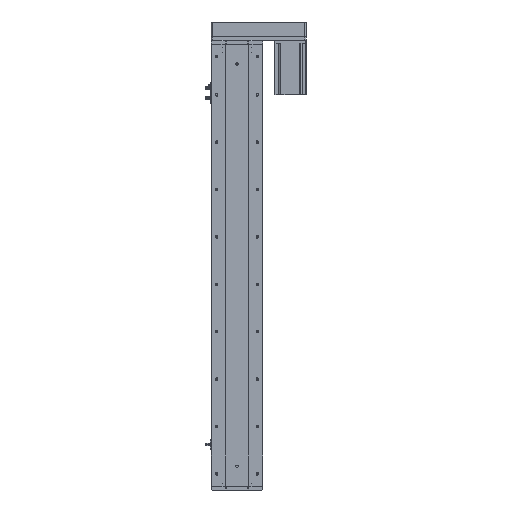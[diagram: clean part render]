
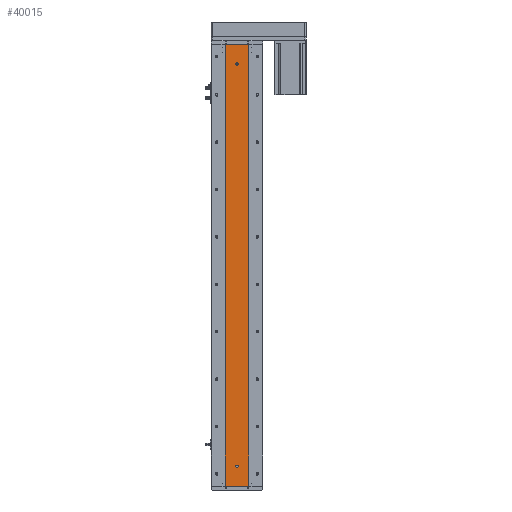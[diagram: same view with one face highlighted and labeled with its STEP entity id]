
A CAD part, left-side view. The second image highlights one B-rep face of the part: STEP entity #40015.
In plain terms, the highlighted planar face has unit normal (-1, 0, 0).
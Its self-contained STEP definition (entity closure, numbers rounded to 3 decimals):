
#620 = CARTESIAN_POINT ( 'NONE',  ( -24.994, 0., 53. ) ) ;
#733 = DIRECTION ( 'NONE',  ( 1., 0., 0. ) ) ;
#1293 = CIRCLE ( 'NONE', #39064, 3. ) ;
#2742 = VERTEX_POINT ( 'NONE', #21813 ) ;
#4194 = CARTESIAN_POINT ( 'NONE',  ( -24.994, -29.785, 0. ) ) ;
#5783 = CARTESIAN_POINT ( 'NONE',  ( -24.994, 0., 1069. ) ) ;
#6350 = VECTOR ( 'NONE', #27580, 1000. ) ;
#6418 = ORIENTED_EDGE ( 'NONE', *, *, #21323, .F. ) ;
#8297 = VERTEX_POINT ( 'NONE', #45828 ) ;
#8593 = EDGE_CURVE ( 'NONE', #48347, #8297, #35517, .T. ) ;
#8966 = CARTESIAN_POINT ( 'NONE',  ( -24.994, 0., 1069. ) ) ;
#9513 = DIRECTION ( 'NONE',  ( 0., 0., 1. ) ) ;
#10117 = EDGE_CURVE ( 'NONE', #2742, #22957, #31793, .T. ) ;
#10566 = AXIS2_PLACEMENT_3D ( 'NONE', #33377, #11016, #37164 ) ;
#11016 = DIRECTION ( 'NONE',  ( -1., 0., 0. ) ) ;
#11095 = VECTOR ( 'NONE', #24670, 1000. ) ;
#11683 = PLANE ( 'NONE',  #34535 ) ;
#12740 = DIRECTION ( 'NONE',  ( 0., 0., 1. ) ) ;
#14522 = FACE_BOUND ( 'NONE', #48151, .T. ) ;
#14836 = VERTEX_POINT ( 'NONE', #28411 ) ;
#15201 = ORIENTED_EDGE ( 'NONE', *, *, #23677, .F. ) ;
#15216 = VERTEX_POINT ( 'NONE', #620 ) ;
#15254 = CARTESIAN_POINT ( 'NONE',  ( -24.994, 0., 50. ) ) ;
#15306 = ORIENTED_EDGE ( 'NONE', *, *, #10117, .F. ) ;
#15327 = EDGE_CURVE ( 'NONE', #15216, #14836, #44857, .T. ) ;
#15699 = FACE_BOUND ( 'NONE', #33719, .T. ) ;
#18959 = DIRECTION ( 'NONE',  ( 0., 0., 1. ) ) ;
#19468 = CIRCLE ( 'NONE', #29425, 3. ) ;
#19557 = VERTEX_POINT ( 'NONE', #36884 ) ;
#19831 = LINE ( 'NONE', #32028, #11095 ) ;
#20075 = CARTESIAN_POINT ( 'NONE',  ( -24.994, 29.785, 1119. ) ) ;
#21277 = VERTEX_POINT ( 'NONE', #38398 ) ;
#21323 = EDGE_CURVE ( 'NONE', #21277, #19557, #1293, .T. ) ;
#21813 = CARTESIAN_POINT ( 'NONE',  ( -24.994, -29.785, 1119. ) ) ;
#21850 = VECTOR ( 'NONE', #40268, 1000. ) ;
#22957 = VERTEX_POINT ( 'NONE', #4194 ) ;
#23099 = CARTESIAN_POINT ( 'NONE',  ( -24.994, 29.785, 1119. ) ) ;
#23677 = EDGE_CURVE ( 'NONE', #19557, #21277, #19468, .T. ) ;
#23849 = LINE ( 'NONE', #20075, #6350 ) ;
#24461 = FACE_OUTER_BOUND ( 'NONE', #45042, .T. ) ;
#24670 = DIRECTION ( 'NONE',  ( 0., -1., 0. ) ) ;
#25380 = CARTESIAN_POINT ( 'NONE',  ( -24.994, 29.785, 1119. ) ) ;
#25767 = EDGE_CURVE ( 'NONE', #48347, #2742, #23849, .T. ) ;
#26867 = DIRECTION ( 'NONE',  ( 0., 0., -1. ) ) ;
#27565 = CARTESIAN_POINT ( 'NONE',  ( -24.994, 29.785, 1119. ) ) ;
#27580 = DIRECTION ( 'NONE',  ( 0., -1., 0. ) ) ;
#28411 = CARTESIAN_POINT ( 'NONE',  ( -24.994, 0., 47. ) ) ;
#28611 = ORIENTED_EDGE ( 'NONE', *, *, #25767, .F. ) ;
#29425 = AXIS2_PLACEMENT_3D ( 'NONE', #5783, #31910, #9513 ) ;
#29469 = EDGE_CURVE ( 'NONE', #14836, #15216, #32980, .T. ) ;
#31024 = ORIENTED_EDGE ( 'NONE', *, *, #8593, .T. ) ;
#31793 = LINE ( 'NONE', #47791, #21850 ) ;
#31910 = DIRECTION ( 'NONE',  ( -1., 0., 0. ) ) ;
#32028 = CARTESIAN_POINT ( 'NONE',  ( -24.994, 29.785, 0. ) ) ;
#32980 = CIRCLE ( 'NONE', #10566, 3. ) ;
#33377 = CARTESIAN_POINT ( 'NONE',  ( -24.994, 0., 50. ) ) ;
#33719 = EDGE_LOOP ( 'NONE', ( #15201, #6418 ) ) ;
#34535 = AXIS2_PLACEMENT_3D ( 'NONE', #23099, #733, #26867 ) ;
#35129 = DIRECTION ( 'NONE',  ( -1., 0., 0. ) ) ;
#35517 = LINE ( 'NONE', #25380, #36701 ) ;
#36701 = VECTOR ( 'NONE', #47777, 1000. ) ;
#36884 = CARTESIAN_POINT ( 'NONE',  ( -24.994, 0., 1072. ) ) ;
#37164 = DIRECTION ( 'NONE',  ( 0., 0., 1. ) ) ;
#37948 = ORIENTED_EDGE ( 'NONE', *, *, #15327, .F. ) ;
#38398 = CARTESIAN_POINT ( 'NONE',  ( -24.994, 0., 1066. ) ) ;
#39064 = AXIS2_PLACEMENT_3D ( 'NONE', #8966, #35129, #12740 ) ;
#39095 = EDGE_CURVE ( 'NONE', #8297, #22957, #19831, .T. ) ;
#40015 = ADVANCED_FACE ( 'NONE', ( #15699, #14522, #24461 ), #11683, .F. ) ;
#40268 = DIRECTION ( 'NONE',  ( 0., 0., -1. ) ) ;
#41401 = DIRECTION ( 'NONE',  ( -1., 0., 0. ) ) ;
#44857 = CIRCLE ( 'NONE', #44997, 3. ) ;
#44997 = AXIS2_PLACEMENT_3D ( 'NONE', #15254, #41401, #18959 ) ;
#45042 = EDGE_LOOP ( 'NONE', ( #48306, #15306, #28611, #31024 ) ) ;
#45374 = ORIENTED_EDGE ( 'NONE', *, *, #29469, .F. ) ;
#45828 = CARTESIAN_POINT ( 'NONE',  ( -24.994, 29.785, 0. ) ) ;
#47777 = DIRECTION ( 'NONE',  ( 0., 0., -1. ) ) ;
#47791 = CARTESIAN_POINT ( 'NONE',  ( -24.994, -29.785, 1119. ) ) ;
#48151 = EDGE_LOOP ( 'NONE', ( #37948, #45374 ) ) ;
#48306 = ORIENTED_EDGE ( 'NONE', *, *, #39095, .T. ) ;
#48347 = VERTEX_POINT ( 'NONE', #27565 ) ;
